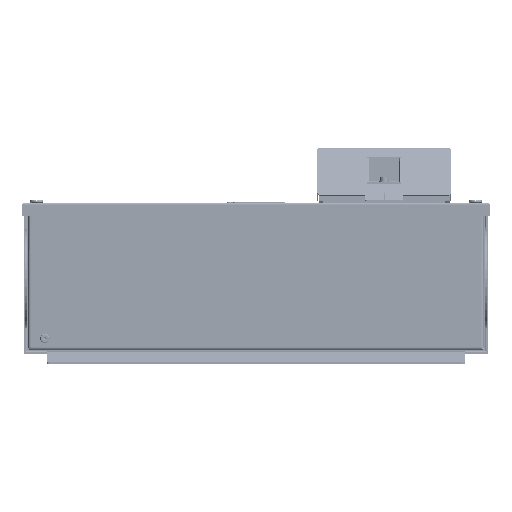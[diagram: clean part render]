
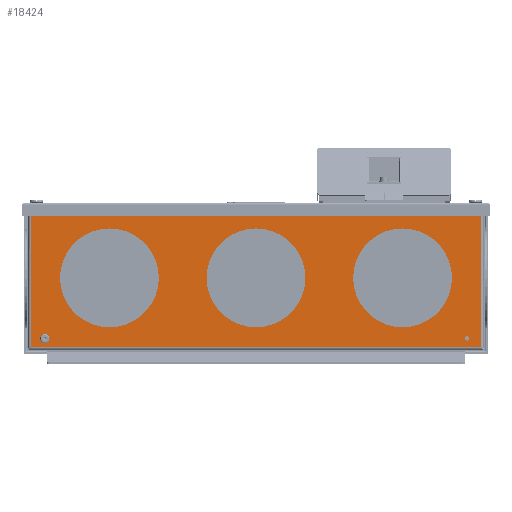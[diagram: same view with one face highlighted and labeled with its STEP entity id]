
A CAD part, front view. The second image highlights one B-rep face of the part: STEP entity #18424.
In plain terms, the highlighted planar face has unit normal (0, -1, 0) as drawn and (1, 0, 0) by its records, which use the part's own axes.
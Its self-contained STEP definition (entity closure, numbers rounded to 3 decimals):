
#17232=CARTESIAN_POINT('',(2.,0.,175.));
#17233=DIRECTION('',(1.,0.,0.));
#17234=DIRECTION('',(0.,0.,1.));
#17235=AXIS2_PLACEMENT_3D('',#17232,#17233,#17234);
#17240=CARTESIAN_POINT('',(2.,0.,175.));
#17241=DIRECTION('',(1.,0.,0.));
#17242=DIRECTION('',(0.,0.,-1.));
#17243=AXIS2_PLACEMENT_3D('',#17240,#17241,#17242);
#17248=CARTESIAN_POINT('',(2.,0.,-175.));
#17249=DIRECTION('',(1.,0.,0.));
#17250=DIRECTION('',(0.,0.,1.));
#17251=AXIS2_PLACEMENT_3D('',#17248,#17249,#17250);
#17256=CARTESIAN_POINT('',(2.,0.,-175.));
#17257=DIRECTION('',(1.,0.,0.));
#17258=DIRECTION('',(0.,0.,-1.));
#17259=AXIS2_PLACEMENT_3D('',#17256,#17257,#17258);
#17264=CARTESIAN_POINT('',(2.,0.,0.));
#17265=DIRECTION('',(1.,0.,0.));
#17266=DIRECTION('',(0.,0.,1.));
#17267=AXIS2_PLACEMENT_3D('',#17264,#17265,#17266);
#17272=CARTESIAN_POINT('',(2.,0.,0.));
#17273=DIRECTION('',(1.,0.,0.));
#17274=DIRECTION('',(0.,0.,-1.));
#17275=AXIS2_PLACEMENT_3D('',#17272,#17273,#17274);
#17280=DIRECTION('',(0.,0.,-1.));
#17281=VECTOR('',#17280,13.);
#17282=CARTESIAN_POINT('',(2.,-83.9,268.9));
#17283=LINE('',#17282,#17281);
#17287=DIRECTION('',(0.,0.,-1.));
#17288=VECTOR('',#17287,13.);
#17289=CARTESIAN_POINT('',(2.,-83.9,-255.9));
#17290=LINE('',#17289,#17288);
#17294=DIRECTION('',(0.,-1.,0.));
#17295=VECTOR('',#17294,1.);
#17296=CARTESIAN_POINT('',(2.,-82.9,-255.9));
#17297=LINE('',#17296,#17295);
#17301=DIRECTION('',(0.,-1.,0.));
#17302=VECTOR('',#17301,1.);
#17303=CARTESIAN_POINT('',(2.,-82.9,255.9));
#17304=LINE('',#17303,#17302);
#17308=CARTESIAN_POINT('',(2.,72.4,252.));
#17309=DIRECTION('',(-1.,0.,0.));
#17310=DIRECTION('',(0.,0.,-1.));
#17311=AXIS2_PLACEMENT_3D('',#17308,#17309,#17310);
#17316=CARTESIAN_POINT('',(2.,72.4,252.));
#17317=DIRECTION('',(-1.,0.,0.));
#17318=DIRECTION('',(0.,0.,1.));
#17319=AXIS2_PLACEMENT_3D('',#17316,#17317,#17318);
#17324=CARTESIAN_POINT('',(2.,72.4,-252.));
#17325=DIRECTION('',(-1.,0.,0.));
#17326=DIRECTION('',(0.,0.,-1.));
#17327=AXIS2_PLACEMENT_3D('',#17324,#17325,#17326);
#17332=CARTESIAN_POINT('',(2.,72.4,-252.));
#17333=DIRECTION('',(-1.,0.,0.));
#17334=DIRECTION('',(0.,0.,1.));
#17335=AXIS2_PLACEMENT_3D('',#17332,#17333,#17334);
#17463=CARTESIAN_POINT('',(2.,82.9,268.9));
#17564=CARTESIAN_POINT('',(2.,82.9,-268.9));
#17651=DIRECTION('',(0.,0.,1.));
#17652=VECTOR('',#17651,511.8);
#17653=CARTESIAN_POINT('',(2.,-82.9,-255.9));
#17654=LINE('',#17653,#17652);
#17787=DIRECTION('',(0.,-1.,0.));
#17788=VECTOR('',#17787,166.8);
#17789=CARTESIAN_POINT('',(2.,82.9,-268.9));
#17790=LINE('',#17789,#17788);
#17899=DIRECTION('',(0.,0.,-1.));
#17900=VECTOR('',#17899,537.8);
#17901=CARTESIAN_POINT('',(2.,82.9,268.9));
#17902=LINE('',#17901,#17900);
#18026=DIRECTION('',(0.,1.,0.));
#18027=VECTOR('',#18026,166.8);
#18028=CARTESIAN_POINT('',(2.,-83.9,268.9));
#18029=LINE('',#18028,#18027);
#18138=CARTESIAN_POINT('',(2.,-82.9,-255.9));
#18140=VERTEX_POINT('',#18138);
#18142=CARTESIAN_POINT('',(2.,-82.9,255.9));
#18144=VERTEX_POINT('',#18142);
#18167=VERTEX_POINT('',#17463);
#18185=VERTEX_POINT('',#17564);
#18210=CARTESIAN_POINT('',(2.,-83.9,268.9));
#18211=CARTESIAN_POINT('',(2.,-83.9,255.9));
#18212=VERTEX_POINT('',#18210);
#18213=VERTEX_POINT('',#18211);
#18214=CARTESIAN_POINT('',(2.,-83.9,-255.9));
#18215=CARTESIAN_POINT('',(2.,-83.9,-268.9));
#18216=VERTEX_POINT('',#18214);
#18217=VERTEX_POINT('',#18215);
#18238=CARTESIAN_POINT('',(2.,72.4,-254.5));
#18239=CARTESIAN_POINT('',(2.,72.4,-249.5));
#18240=VERTEX_POINT('',#18238);
#18241=VERTEX_POINT('',#18239);
#18242=CARTESIAN_POINT('',(2.,72.4,249.5));
#18243=CARTESIAN_POINT('',(2.,72.4,254.5));
#18244=VERTEX_POINT('',#18242);
#18245=VERTEX_POINT('',#18243);
#18258=CARTESIAN_POINT('',(2.,0.,59.));
#18259=CARTESIAN_POINT('',(2.,0.,-59.));
#18260=VERTEX_POINT('',#18258);
#18261=VERTEX_POINT('',#18259);
#18262=CARTESIAN_POINT('',(2.,0.,-116.));
#18263=CARTESIAN_POINT('',(2.,0.,-234.));
#18264=VERTEX_POINT('',#18262);
#18265=VERTEX_POINT('',#18263);
#18266=CARTESIAN_POINT('',(2.,0.,234.));
#18267=CARTESIAN_POINT('',(2.,0.,116.));
#18268=VERTEX_POINT('',#18266);
#18269=VERTEX_POINT('',#18267);
#18373=CARTESIAN_POINT('',(2.,0.,0.));
#18374=DIRECTION('',(1.,0.,0.));
#18375=DIRECTION('',(0.,0.,-1.));
#18376=AXIS2_PLACEMENT_3D('',#18373,#18374,#18375);
#18377=PLANE('',#18376);
#18379=ORIENTED_EDGE('',*,*,#18378,.F.);
#18381=ORIENTED_EDGE('',*,*,#18380,.T.);
#18383=ORIENTED_EDGE('',*,*,#18382,.T.);
#18385=ORIENTED_EDGE('',*,*,#18384,.T.);
#18387=ORIENTED_EDGE('',*,*,#18386,.F.);
#18389=ORIENTED_EDGE('',*,*,#18388,.F.);
#18391=ORIENTED_EDGE('',*,*,#18390,.T.);
#18393=ORIENTED_EDGE('',*,*,#18392,.T.);
#18394=EDGE_LOOP('',(#18379,#18381,#18383,#18385,#18387,#18389,#18391,#18393));
#18395=FACE_OUTER_BOUND('',#18394,.F.);
#18397=ORIENTED_EDGE('',*,*,#18396,.T.);
#18399=ORIENTED_EDGE('',*,*,#18398,.T.);
#18400=EDGE_LOOP('',(#18397,#18399));
#18401=FACE_BOUND('',#18400,.F.);
#18402=ORIENTED_EDGE('',*,*,#18360,.T.);
#18403=ORIENTED_EDGE('',*,*,#18279,.T.);
#18404=EDGE_LOOP('',(#18402,#18403));
#18405=FACE_BOUND('',#18404,.F.);
#18407=ORIENTED_EDGE('',*,*,#18406,.T.);
#18409=ORIENTED_EDGE('',*,*,#18408,.T.);
#18410=EDGE_LOOP('',(#18407,#18409));
#18411=FACE_BOUND('',#18410,.F.);
#18413=ORIENTED_EDGE('',*,*,#18412,.F.);
#18415=ORIENTED_EDGE('',*,*,#18414,.F.);
#18416=EDGE_LOOP('',(#18413,#18415));
#18417=FACE_BOUND('',#18416,.F.);
#18419=ORIENTED_EDGE('',*,*,#18418,.F.);
#18421=ORIENTED_EDGE('',*,*,#18420,.F.);
#18422=EDGE_LOOP('',(#18419,#18421));
#18423=FACE_BOUND('',#18422,.F.);
#18424=ADVANCED_FACE('',(#18395,#18401,#18405,#18411,#18417,#18423),#18377,.T.);
#17236=CIRCLE('',#17235,59.);
#17244=CIRCLE('',#17243,59.);
#17252=CIRCLE('',#17251,59.);
#17260=CIRCLE('',#17259,59.);
#17268=CIRCLE('',#17267,59.);
#17276=CIRCLE('',#17275,59.);
#17312=CIRCLE('',#17311,2.5);
#17320=CIRCLE('',#17319,2.5);
#17328=CIRCLE('',#17327,2.5);
#17336=CIRCLE('',#17335,2.5);
#18279=EDGE_CURVE('',#18261,#18260,#17276,.T.);
#18360=EDGE_CURVE('',#18260,#18261,#17268,.T.);
#18378=EDGE_CURVE('',#18212,#18213,#17283,.T.);
#18380=EDGE_CURVE('',#18212,#18167,#18029,.T.);
#18382=EDGE_CURVE('',#18167,#18185,#17902,.T.);
#18384=EDGE_CURVE('',#18185,#18217,#17790,.T.);
#18386=EDGE_CURVE('',#18216,#18217,#17290,.T.);
#18388=EDGE_CURVE('',#18140,#18216,#17297,.T.);
#18390=EDGE_CURVE('',#18140,#18144,#17654,.T.);
#18392=EDGE_CURVE('',#18144,#18213,#17304,.T.);
#18396=EDGE_CURVE('',#18264,#18265,#17252,.T.);
#18398=EDGE_CURVE('',#18265,#18264,#17260,.T.);
#18406=EDGE_CURVE('',#18268,#18269,#17236,.T.);
#18408=EDGE_CURVE('',#18269,#18268,#17244,.T.);
#18412=EDGE_CURVE('',#18244,#18245,#17312,.T.);
#18414=EDGE_CURVE('',#18245,#18244,#17320,.T.);
#18418=EDGE_CURVE('',#18240,#18241,#17328,.T.);
#18420=EDGE_CURVE('',#18241,#18240,#17336,.T.);
